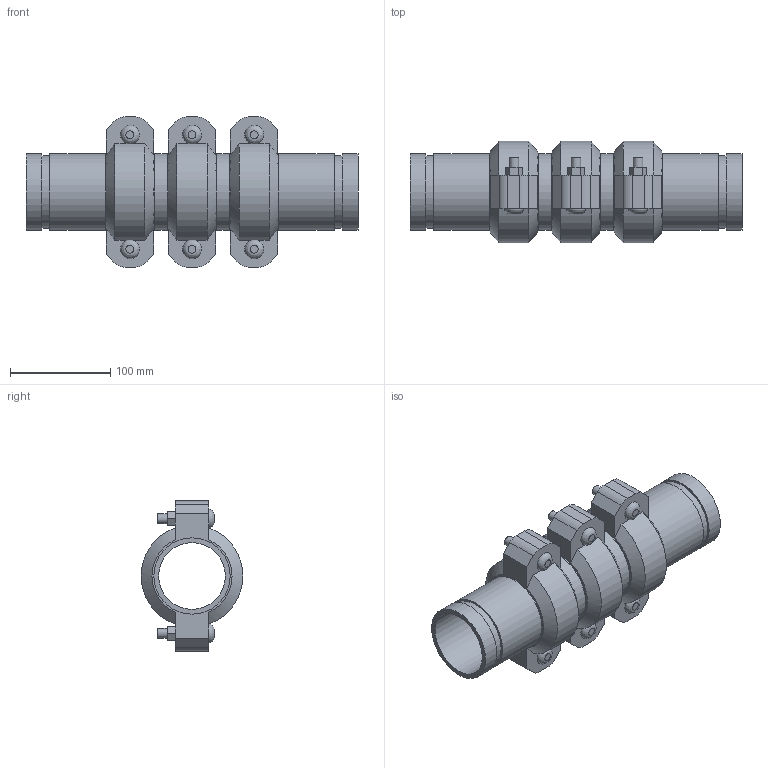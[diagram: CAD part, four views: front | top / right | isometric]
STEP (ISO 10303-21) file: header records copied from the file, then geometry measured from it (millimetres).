
FILE_DESCRIPTION(/* description */ ('VIC EXPANSION JOINT 3 COUPLINGS EXPANDED STYLE 155 (OGS)','CAx-IF Rec.Pracs.---Representation and Presentation of Product Manufacturing Information (PMI)---4.0---2014-10-13'),/* implementation_level */ '2;1');
FILE_NAME(/* name */ 'C:\Users\kkamble\AppData\Roaming\Autodesk\ApplicationPlugins\Victaulic.Temp\A258\Victaulic_IPS_Expansion Joint_Expanded_3 Couplings_Style 155 (OGS)_02.5 (76.1) (65).stp',/* time_stamp */ '2021-06-26T23:58:21+02:00',/* author */ ('kkamble'),/* organization */ ('Victaulic'),/* preprocessor_version */ 'ST-DEVELOPER v17.2',/* originating_system */ 'Autodesk Inventor 2019',/* authorisation */ '');
FILE_SCHEMA (('AP242_MANAGED_MODEL_BASED_3D_ENGINEERING_MIM_LF { 1 0 10303 442 1 1 4 }'));
Length unit declared in the file: inch
Products named in the file (4): 155-02.5 (76.1); Nipple-02.5 (76.1); Nipple-02.5 (76.1)_1; 075-02.5 (76.1)
Assembly tree (7 placements, depth 2):
  155-02.5 (76.1)
    Nipple-02.5 (76.1)  x2
    Nipple-02.5 (76.1)_1  x2
    075-02.5 (76.1)  x3
Bounding box: 331.47 x 101.25 x 149.86 mm (x, y, z)
Volume: 984199.6 mm3; surface area: 297948.8 mm2
Topology: 7 solids, 13 shells, 219 faces, 531 edges, 372 vertices
Faces by surface type: plane 132, cylinder 69, cone 12, bspline 6
Full cylindrical faces by diameter (mm): 9.525 x12, 11.43 x6, 66.65 x4, 69.85 x3, 72.263 x8, 76.2 x18
Entity records: 2819 total; most frequent: CARTESIAN_POINT 523, DIRECTION 459, ORIENTED_EDGE 394, EDGE_CURVE 197, AXIS2_PLACEMENT_3D 182, VERTEX_POINT 140, EDGE_LOOP 105, LINE 95
